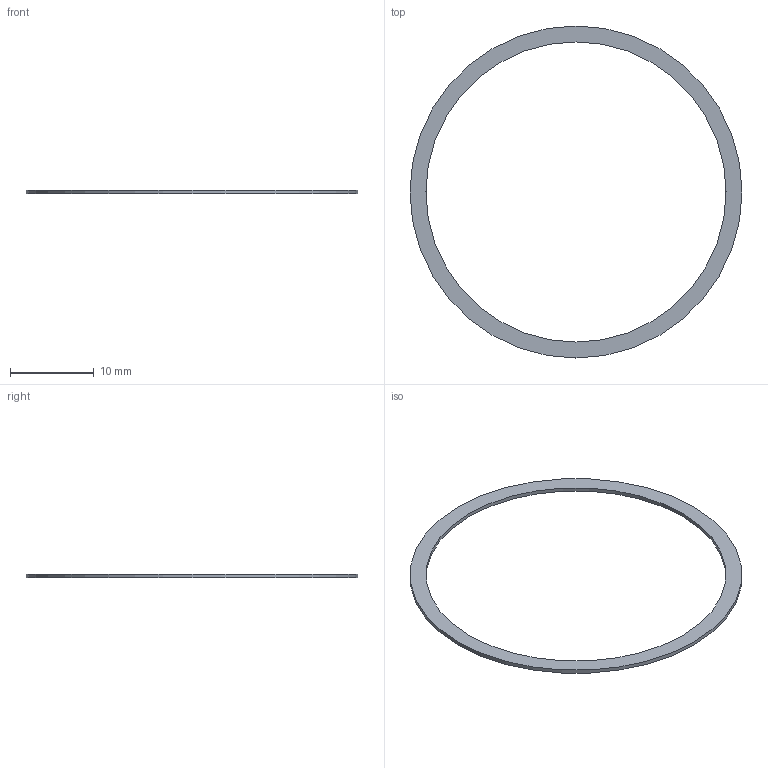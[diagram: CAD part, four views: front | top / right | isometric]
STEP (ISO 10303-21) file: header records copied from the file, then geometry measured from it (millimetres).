
FILE_DESCRIPTION(('Open CASCADE Model'),'2;1');
FILE_NAME('C27_R2_Speaker_Front_Gasket','2026-09-09T17:52:57',('Author') ,('Open CASCADE'),'Open CASCADE STEP processor 7.9','build123d', 'Unknown');
FILE_SCHEMA(('AUTOMOTIVE_DESIGN { 1 0 10303 214 1 1 1 1 }'));
Length unit declared in the file: millimetre
Products named in the file (1): C27_R2_Speaker_Front_Gasket
Bounding box: 39.6 x 39.6 x 0.45 mm (x, y, z)
Volume: 101.3 mm3; surface area: 556.7 mm2
Topology: 1 solids, 1 shells, 4 faces, 6 edges, 4 vertices
Faces by surface type: cylinder 2, plane 2
Full cylindrical faces by diameter (mm): 35.8 x1, 39.6 x1
Entity records: 186 total; most frequent: DIRECTION 32, CARTESIAN_POINT 27, ORIENTED_EDGE 12, PCURVE 12, DEFINITIONAL_REPRESENTATION 12, LINE 10, VECTOR 10, AXIS2_PLACEMENT_3D 9
